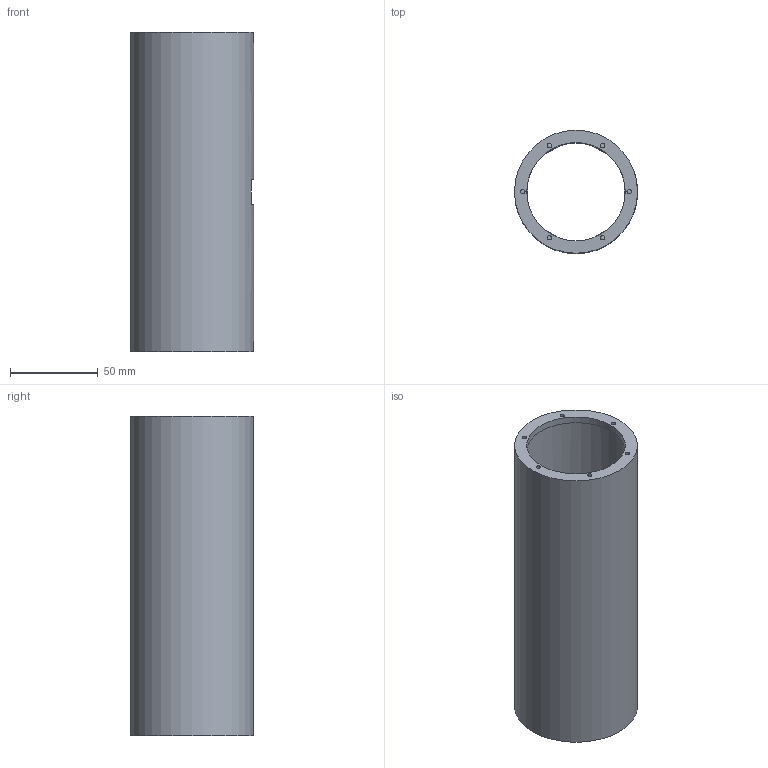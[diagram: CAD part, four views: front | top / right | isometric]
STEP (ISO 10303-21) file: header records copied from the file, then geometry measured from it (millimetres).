
FILE_DESCRIPTION(('Open CASCADE Model'),'2;1');
FILE_NAME('Open CASCADE Shape Model','2026-10-04T21:56:21',('Author'),( 'Open CASCADE'),'Open CASCADE STEP processor 7.9','Open CASCADE 7.9' ,'Unknown');
FILE_SCHEMA(('AUTOMOTIVE_DESIGN { 1 0 10303 214 1 1 1 1 }'));
Length unit declared in the file: millimetre
Products named in the file (1): Open CASCADE STEP translator 7.9 1
Bounding box: 70 x 70 x 182 mm (x, y, z)
Volume: 103480.2 mm3; surface area: 82192.4 mm2
Topology: 1 solids, 1 shells, 48 faces, 105 edges, 70 vertices
Faces by surface type: cylinder 28, plane 20
Full cylindrical faces by diameter (mm): 2.5 x18, 7 x6, 56 x2, 65 x1, 70 x1
Entity records: 4220 total; most frequent: CARTESIAN_POINT 1952, DIRECTION 435, ORIENTED_EDGE 210, PCURVE 210, DEFINITIONAL_REPRESENTATION 210, LINE 167, VECTOR 167, CIRCLE 112
